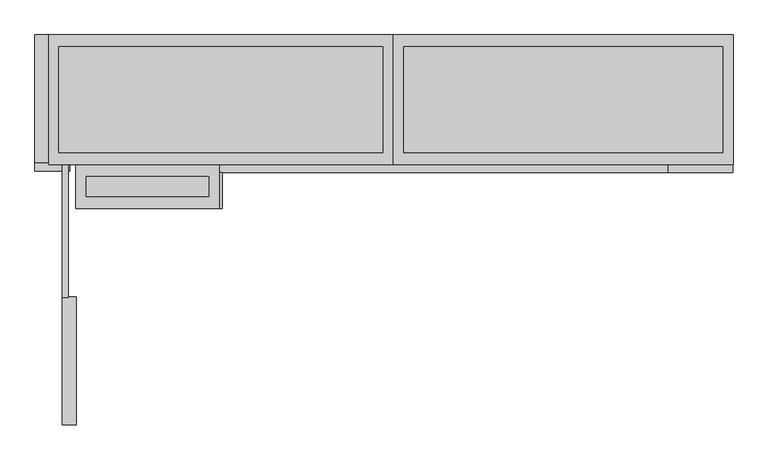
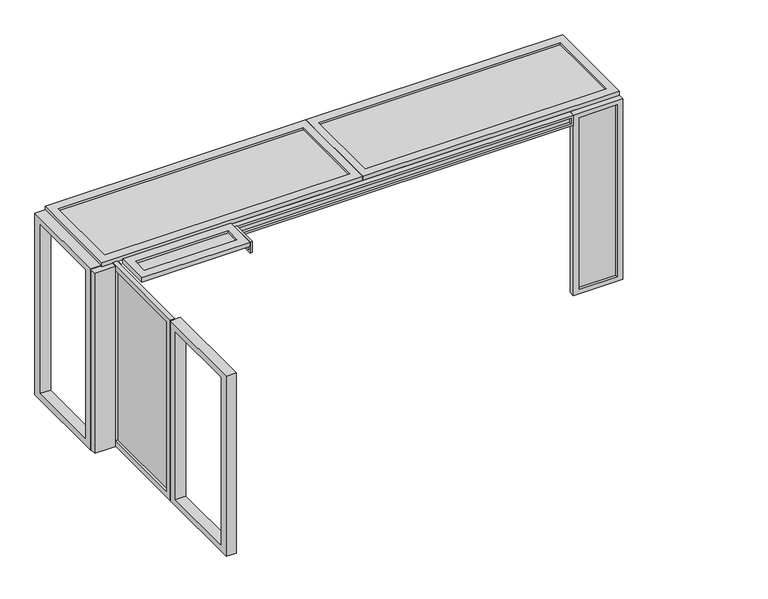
"""IFC4 building model written with IfcOpenShell, lengths in millimetres: beam geometry, Inside partition and doors_Config2_Separation : Inside partition and doors_Config2_Separation."""

import ifcopenshell
import ifcopenshell.guid

model = None  # the IFC model being written
_history = None  # IfcOwnerHistory: only IFC2X3 demands one
_inside = {}  # id of a spatial element -> (the spatial element, [elements in it])
_under = {}  # id of a project, library or spatial element -> (it, [spatial elements below it])
_declared = {}  # id of a project -> (the project, [libraries it declares])
_typed = {}  # id of a type object -> (the type object, [elements of that type])
_made_of = {}  # id of a material, layer set ... -> (it, [elements and type objects made of it])


def new_model(schema):
    """Start an empty IFC model of exactly this schema.

    Asked for "IFC4X3", IfcOpenShell would pick the latest addendum, in which some entities
    have other attributes; the version numbers below select the first issue.
    IFC2X3 requires an IfcOwnerHistory on every rooted entity: one is made here for all.
    """
    global model, _history
    if schema == "IFC4X3":
        model = ifcopenshell.file(schema_version=(4, 3, 0, 0))
    else:
        model = ifcopenshell.file(schema=schema)
    _inside.clear()
    _under.clear()
    _declared.clear()
    _typed.clear()
    _made_of.clear()
    _history = None
    if model.schema == "IFC2X3":
        org = make("IfcOrganization", Name="unknown")
        user = make(
            "IfcPersonAndOrganization",
            ThePerson=make("IfcPerson", FamilyName="unknown"),
            TheOrganization=org,
        )
        app = make(
            "IfcApplication",
            ApplicationDeveloper=org,
            Version="unknown",
            ApplicationFullName="unknown",
            ApplicationIdentifier="unknown",
        )
        _history = make(
            "IfcOwnerHistory",
            OwningUser=user,
            OwningApplication=app,
            ChangeAction="ADDED",
            CreationDate=0,
        )
    return model


def make(cls, **values):
    """One entity of the class cls with the attributes given. An attribute that is None is left unset."""
    return model.create_entity(
        cls, **{name: value for name, value in values.items() if value is not None}
    )


def rooted(cls, **values):
    """An entity with a GlobalId (a new one), such as an element, a storey or a relation."""
    return make(cls, GlobalId=ifcopenshell.guid.new(), OwnerHistory=_history, **values)


def si_unit(unit_type, name, prefix=None):
    """IfcSIUnit, for example si_unit("LENGTHUNIT", "METRE", prefix="MILLI")."""
    return make("IfcSIUnit", UnitType=unit_type, Prefix=prefix, Name=name)


def assignment(units):
    """IfcUnitAssignment: the units of a project."""
    return None if units is None else make("IfcUnitAssignment", Units=units)


def point(xyz):
    """IfcCartesianPoint."""
    return None if xyz is None else make("IfcCartesianPoint", Coordinates=xyz)


def direction(xyz):
    """IfcDirection."""
    return None if xyz is None else make("IfcDirection", DirectionRatios=xyz)


def frame(location, z_axis=None, x_axis=None):
    """IfcAxis2Placement3D, a coordinate frame: its origin and axes. An axis left out is left unset."""
    return make(
        "IfcAxis2Placement3D",
        Location=point(location),
        Axis=direction(z_axis),
        RefDirection=direction(x_axis),
    )


def origin():
    """The frame at (0, 0, 0) with its axes left unset."""
    return frame((0.0, 0.0, 0.0))


def place(relative_to, where):
    """IfcLocalPlacement: puts the frame where relative to a parent placement (None: the world)."""
    return make(
        "IfcLocalPlacement", PlacementRelTo=relative_to, RelativePlacement=where
    )


def context(
    kind, dimensions, precision=None, world=None, true_north=None, identifier=None
):
    """IfcGeometricRepresentationContext, for example the 3D "Model" context."""
    return make(
        "IfcGeometricRepresentationContext",
        ContextIdentifier=identifier,
        ContextType=kind,
        CoordinateSpaceDimension=dimensions,
        Precision=precision,
        WorldCoordinateSystem=world,
        TrueNorth=true_north,
    )


def project(units=None, contexts=None):
    """IfcProject with its units and contexts."""
    return rooted(
        "IfcProject",
        Name="project",
        RepresentationContexts=contexts,
        UnitsInContext=assignment(units),
    )


def spatial(cls, under=None, at=None, **own):
    """A site, building, storey or space (cls), placed at a placement, below another one or the project."""
    s = rooted(cls, ObjectPlacement=at, **own)
    if under is not None:
        _under.setdefault(under.id(), (under, []))[1].append(s)
    return s


def polyline(points):
    """IfcPolyline through the points."""
    return make("IfcPolyline", Points=[point(p) for p in points])


def outline(outer, holes=None, kind="AREA"):
    """IfcArbitraryClosedProfileDef: a profile drawn as a closed curve; with holes, ...WithVoids."""
    if holes is None:
        return make("IfcArbitraryClosedProfileDef", ProfileType=kind, OuterCurve=outer)
    return make(
        "IfcArbitraryProfileDefWithVoids",
        ProfileType=kind,
        OuterCurve=outer,
        InnerCurves=holes,
    )


def extrude(swept, where, along, depth):
    """IfcExtrudedAreaSolid: the profile swept, set in the frame where, extruded along a direction by depth."""
    return make(
        "IfcExtrudedAreaSolid",
        SweptArea=swept,
        Position=where,
        ExtrudedDirection=direction(along),
        Depth=depth,
    )


def shape(context_of_items, identifier, shape_type, items):
    """IfcShapeRepresentation: the items that make up one representation, for example the "Body"."""
    return make(
        "IfcShapeRepresentation",
        ContextOfItems=context_of_items,
        RepresentationIdentifier=identifier,
        RepresentationType=shape_type,
        Items=items,
    )


def source(mapping_origin, context_of_items, identifier, shape_type, items):
    """IfcRepresentationMap: a shape defined once, which mapped items show again and again."""
    return make(
        "IfcRepresentationMap",
        MappingOrigin=mapping_origin,
        MappedRepresentation=shape(context_of_items, identifier, shape_type, items),
    )


def transform(
    local_origin,
    x_axis=None,
    y_axis=None,
    z_axis=None,
    scale=None,
    scale2=None,
    scale3=None,
    uniform=True,
):
    """IfcCartesianTransformationOperator3D, or its non-uniform kind. x_axis, y_axis, z_axis: its Axis1, 2, 3."""
    if uniform:
        return make(
            "IfcCartesianTransformationOperator3D",
            Axis1=direction(x_axis),
            Axis2=direction(y_axis),
            LocalOrigin=point(local_origin),
            Scale=scale,
            Axis3=direction(z_axis),
        )
    return make(
        "IfcCartesianTransformationOperator3DnonUniform",
        Axis1=direction(x_axis),
        Axis2=direction(y_axis),
        LocalOrigin=point(local_origin),
        Scale=scale,
        Axis3=direction(z_axis),
        Scale2=scale2,
        Scale3=scale3,
    )


def mapped(mapping_source, mapping_target):
    """IfcMappedItem: shows the shape of a source again, moved by a transform."""
    return make(
        "IfcMappedItem", MappingSource=mapping_source, MappingTarget=mapping_target
    )


def made_of(thing, what):
    """Note that an element or type object is made of a material, layer set ...; save() writes the relation."""
    if what is not None:
        _made_of.setdefault(what.id(), (what, []))[1].append(thing)
    return thing


def element(
    cls,
    number,
    at=None,
    inside=None,
    cuts=None,
    type_object=None,
    material=None,
    context=None,
    identifier="Body",
    shape_type=None,
    held_by="IfcProductDefinitionShape",
    body=None,
    shapes=None,
    **own,
):
    """One element of the class cls, such as IfcWall. Its Tag is "e" and its number.

    at: its placement. inside: the storey or other place that contains it. cuts: it is an
    opening in that element (IfcRelVoidsElement). A single representation is given by context,
    identifier, shape_type and body (its items); several are given by shapes. held_by: the class
    of the entity that holds the representations. save() writes the other relations.
    """
    e = rooted(cls, Tag="e%d" % number, ObjectPlacement=at, **own)
    if body is not None:
        shapes = [shape(context, identifier, shape_type, body)]
    if shapes is not None:
        e.Representation = make(held_by, Representations=shapes)
    if inside is not None:
        _inside.setdefault(inside.id(), (inside, []))[1].append(e)
    if cuts is not None:
        rooted(
            "IfcRelVoidsElement", RelatingBuildingElement=cuts, RelatedOpeningElement=e
        )
    if type_object is not None:
        _typed.setdefault(type_object.id(), (type_object, []))[1].append(e)
    return made_of(e, material)


def aggregate(whole, parts):
    """IfcRelAggregates: a whole, such as a stair, and the parts it consists of."""
    return rooted("IfcRelAggregates", RelatingObject=whole, RelatedObjects=parts)


def save(model, path):
    """Write the relations noted so far, then the file.

    IfcRelAggregates (storeys below a building ...), IfcRelContainedInSpatialStructure (elements
    in a storey), IfcRelDefinesByType, IfcRelAssociatesMaterial and IfcRelDeclares: one each for
    every whole, place, type object, material and project.
    """
    for whole, parts in _under.values():
        aggregate(whole, parts)
    for where, things in _inside.values():
        rooted(
            "IfcRelContainedInSpatialStructure",
            RelatedElements=things,
            RelatingStructure=where,
        )
    for kind, things in _typed.values():
        rooted("IfcRelDefinesByType", RelatedObjects=things, RelatingType=kind)
    for what, things in _made_of.values():
        rooted("IfcRelAssociatesMaterial", RelatedObjects=things, RelatingMaterial=what)
    for by, libraries in _declared.values():
        rooted("IfcRelDeclares", RelatingContext=by, RelatedDefinitions=libraries)
    model.write(path)


def beam_8cc5f2e6(model_context):
    return source(origin(), model_context, "Body", "SweptSolid", [
        extrude(outline(polyline([(2805.4073535, 1312.4488), (2805.4073535, 2285.4488), (2830.4073535, 2285.4488), (2830.4073535, 1312.4488), (2805.4073535, 1312.4488)])), frame((0.0, 0.0, 494.5), z_axis=(0.0, 0.0, 1.0), x_axis=(1.0, 0.0, 0.0)), (0.0, 0.0, 1.0), 1983.0),
        extrude(outline(polyline([(1235.4488, 2540.5), (2362.4488, 2540.5), (2362.4488, 431.5), (1235.4488, 431.5), (1235.4488, 2540.5)]), holes=[polyline([(1312.4488, 2477.5), (1312.4488, 494.5), (2285.4488, 494.5), (2285.4488, 2477.5), (1312.4488, 2477.5)])]), frame((2780.4073535, 0.0, 0.0), z_axis=(1.0, 0.0, 0.0), x_axis=(0.0, 1.0, 0.0)), (0.0, 0.0, 1.0), 50.0),
        extrude(outline(polyline([(170.4488, 2533.3590317), (1241.4488, 2533.3590317), (1241.4488, 424.3590317), (170.4488, 424.3590317), (170.4488, 2533.3590317)]), holes=[polyline([(272.4488, 2456.3590317), (272.4488, 501.3590317), (1139.4488, 501.3590317), (1139.4488, 2456.3590317), (272.4488, 2456.3590317)])]), frame((2780.4073535, 0.0, 0.0), z_axis=(1.0, 0.0, 0.0), x_axis=(0.0, 1.0, 0.0)), (0.0, 0.0, 1.0), 114.0),
        extrude(outline(polyline([(2362.0503176, 2540.8590317), (3433.0503176, 2540.8590317), (3433.0503176, 416.8590317), (2362.0503176, 416.8590317), (2362.0503176, 2540.8590317)]), holes=[polyline([(2464.0503176, 2463.8590317), (2464.0503176, 493.8590317), (3331.0503176, 493.8590317), (3331.0503176, 2463.8590317), (2464.0503176, 2463.8590317)])]), frame((2550.4073535, 0.0, 0.0), z_axis=(1.0, 0.0, 0.0), x_axis=(0.0, 1.0, 0.0)), (0.0, 0.0, 1.0), 114.0),
        extrude(outline(polyline([(4003.4073535, 2247.45828), (4003.4073535, 2079.45828), (2980.4073535, 2079.45828), (2980.4073535, 2247.45828), (4003.4073535, 2247.45828)])), frame((0.0, 0.0, 2494.0), z_axis=(0.0, 0.0, 1.0), x_axis=(1.0, 0.0, 0.0)), (0.0, 0.0, 1.0), 25.0),
        extrude(outline(polyline([(4090.4073535, 2347.45828), (4090.4073535, 1979.45828), (2893.4073535, 1979.45828), (2893.4073535, 2347.45828), (4090.4073535, 2347.45828)]), holes=[polyline([(4003.4073535, 2247.45828), (2980.4073535, 2247.45828), (2980.4073535, 2079.45828), (4003.4073535, 2079.45828), (4003.4073535, 2247.45828)])]), frame((0.0, 0.0, 2494.0), z_axis=(0.0, 0.0, 1.0), x_axis=(1.0, 0.0, 0.0)), (0.0, 0.0, 1.0), 50.0),
        extrude(outline(polyline([(7815.4073535, 2311.332286), (4115.4073535, 2311.332286), (4115.4073535, 2343.332286), (7815.4073535, 2343.332286), (7815.4073535, 2311.332286)])), frame((0.0, 0.0, 2440.0), z_axis=(0.0, 0.0, 1.0), x_axis=(1.0, 0.0, 0.0)), (0.0, 0.0, 1.0), 69.0),
        extrude(outline(polyline([(2534.0, 7840.4073535), (2534.0, 4090.4073535), (2415.0, 4090.4073535), (2415.0, 7840.4073535), (2534.0, 7840.4073535)]), holes=[polyline([(2509.0, 7815.4073535), (2440.0, 7815.4073535), (2440.0, 4115.4073535), (2509.0, 4115.4073535), (2509.0, 7815.4073535)])]), frame((0.0, 2279.332286, 0.0), z_axis=(0.0, 1.0, 0.0), x_axis=(0.0, 0.0, 1.0)), (0.0, 0.0, 1.0), 64.0),
        extrude(outline(polyline([(8301.4073535, 3332.9582853), (8301.4073535, 2446.9582853), (5634.4073535, 2446.9582853), (5634.4073535, 3332.9582853), (8301.4073535, 3332.9582853)])), frame((0.0, 0.0, 2533.6930459), z_axis=(0.0, 0.0, 1.0), x_axis=(1.0, 0.0, 0.0)), (0.0, 0.0, 1.0), 23.5),
        extrude(outline(polyline([(8388.4073535, 3432.9582853), (8388.4073535, 2346.9582853), (5547.4073535, 2346.9582853), (5547.4073535, 3432.9582853), (8388.4073535, 3432.9582853)]), holes=[polyline([(8301.4073535, 3332.9582853), (5634.4073535, 3332.9582853), (5634.4073535, 2446.9582853), (8301.4073535, 2446.9582853), (8301.4073535, 3332.9582853)])]), frame((0.0, 0.0, 2533.6930459), z_axis=(0.0, 0.0, 1.0), x_axis=(1.0, 0.0, 0.0)), (0.0, 0.0, 1.0), 47.0),
        extrude(outline(polyline([(5460.4073535, 3332.95828), (5460.4073535, 2446.95828), (2751.4073535, 2446.95828), (2751.4073535, 3332.95828), (5460.4073535, 3332.95828)])), frame((0.0, 0.0, 2533.6930544), z_axis=(0.0, 0.0, 1.0), x_axis=(1.0, 0.0, 0.0)), (0.0, 0.0, 1.0), 23.5),
        extrude(outline(polyline([(5547.4073535, 3432.95828), (5547.4073535, 2346.95828), (2664.4073535, 2346.95828), (2664.4073535, 3432.95828), (5547.4073535, 3432.95828)]), holes=[polyline([(5460.4073535, 3332.95828), (2751.4073535, 3332.95828), (2751.4073535, 2446.95828), (5460.4073535, 2446.95828), (5460.4073535, 3332.95828)])]), frame((0.0, 0.0, 2533.6930544), z_axis=(0.0, 0.0, 1.0), x_axis=(1.0, 0.0, 0.0)), (0.0, 0.0, 1.0), 47.0),
        extrude(outline(polyline([(8323.4073535, 2311.332286), (7903.4073535, 2311.332286), (7903.4073535, 2343.332286), (8323.4073535, 2343.332286), (8323.4073535, 2311.332286)])), frame((0.0, 0.0, 474.0), z_axis=(0.0, 0.0, 1.0), x_axis=(1.0, 0.0, 0.0)), (0.0, 0.0, 1.0), 2010.0),
        extrude(outline(polyline([(2534.0, 8386.4073535), (2534.0, 7840.4073535), (424.0, 7840.4073535), (424.0, 8386.4073535), (2534.0, 8386.4073535)]), holes=[polyline([(2484.0, 8323.4073535), (474.0, 8323.4073535), (474.0, 7903.4073535), (2484.0, 7903.4073535), (2484.0, 8323.4073535)])]), frame((0.0, 2279.332286, 0.0), z_axis=(0.0, 1.0, 0.0), x_axis=(0.0, 0.0, 1.0)), (0.0, 0.0, 1.0), 64.0),
        extrude(outline(polyline([(2843.4073535, 2291.332286), (2550.4073535, 2291.332286), (2550.4073535, 2368.332286), (2843.4073535, 2368.332286), (2843.4073535, 2291.332286)])), frame((0.0, 0.0, 424.0), z_axis=(0.0, 0.0, 1.0), x_axis=(1.0, 0.0, 0.0)), (0.0, 0.0, 1.0), 2109.0),
        extrude(outline(polyline([(2279.332286, 2544.0), (2279.332286, 2415.0), (1979.332286, 2415.0), (1979.332286, 2544.0), (2279.332286, 2544.0)]), holes=[polyline([(2254.332286, 2469.0), (2004.332286, 2469.0), (2004.332286, 2440.0), (2254.332286, 2440.0), (2254.332286, 2469.0)])]), frame((4090.4073535, 0.0, 0.0), z_axis=(1.0, 0.0, 0.0), x_axis=(0.0, 1.0, 0.0)), (0.0, 0.0, 1.0), 25.0),
    ])


if __name__ == "__main__":
    model = new_model("IFC4")
    model_context = context("Model", 3, world=origin())
    ifc_project = project(units=[si_unit("LENGTHUNIT", "METRE", prefix="MILLI")], contexts=[model_context])
    site = spatial("IfcSite", under=ifc_project)
    building = spatial("IfcBuilding", under=site)
    placement = place(None, origin())
    beam_shape = beam_8cc5f2e6(model_context)
    element("IfcBeam", 1, ObjectType="Inside partition and doors_Config2_Separation : Inside partition and doors_Config2_Separation", at=placement, inside=building, context=model_context, shape_type="MappedRepresentation", body=[
        mapped(beam_shape, transform((0.0, 0.0, 0.0), x_axis=(1.0, 0.0, 0.0), y_axis=(0.0, 1.0, 0.0), z_axis=(0.0, 0.0, 1.0))),
    ])
    save(model, "model.ifc")
